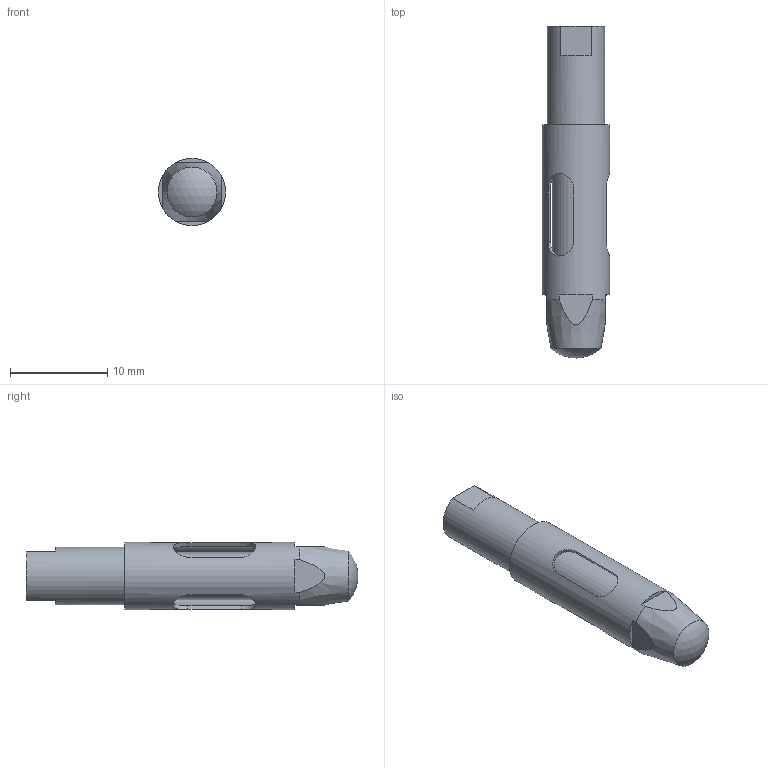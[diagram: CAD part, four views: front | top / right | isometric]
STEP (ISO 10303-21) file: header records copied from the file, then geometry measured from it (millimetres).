
FILE_DESCRIPTION(/* description */ (''),/* implementation_level */ '2;1');
FILE_NAME(/* name */ 'T:\Anwender\Praktikant\Tobias Könemund\Innengreifer\Parametrisch\G-GI007_vereinfacht.stp',/* time_stamp */ '2015-10-30T08:20:53+01:00',/* author */ ('Praktikant'),/* organization */ ('GRIP GmbH'),/* preprocessor_version */ 'ST-DEVELOPER v15.2',/* originating_system */ 'Autodesk Inventor 2014',/* authorisation */ '');
FILE_SCHEMA (('AUTOMOTIVE_DESIGN { 1 0 10303 214 3 1 1 }'));
Length unit declared in the file: millimetre
Products named in the file (3): G-GI007-2.1-1 Dorn_vereinfacht-14; G-GI007-1.1-1 Hülse_vereinfacht-05; Baugruppe_vereinfacht
Bounding box: 6.9 x 34.13 x 6.9 mm (x, y, z)
Volume: 922.7 mm3; surface area: 1344.2 mm2
Topology: 2 solids, 2 shells, 37 faces, 95 edges, 63 vertices
Faces by surface type: plane 23, cylinder 11, cone 2, sphere 1
Full cylindrical faces by diameter (mm): 3 x1, 4.9 x1, 5.9 x1, 6.1 x1, 6.9 x1
Entity records: 1288 total; most frequent: CARTESIAN_POINT 392, DIRECTION 170, ORIENTED_EDGE 162, EDGE_CURVE 81, AXIS2_PLACEMENT_3D 63, VERTEX_POINT 57, EDGE_LOOP 52, LINE 44
